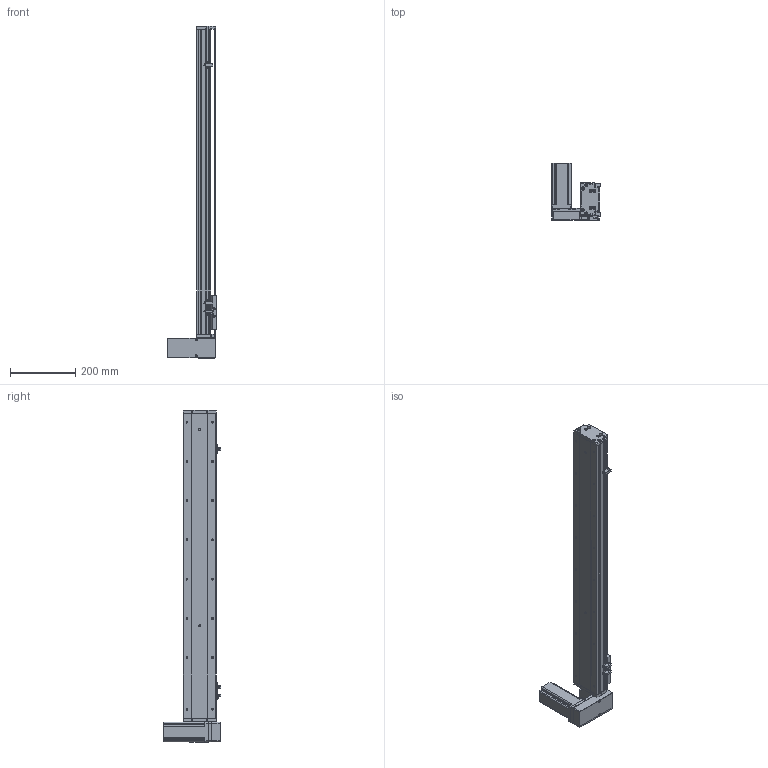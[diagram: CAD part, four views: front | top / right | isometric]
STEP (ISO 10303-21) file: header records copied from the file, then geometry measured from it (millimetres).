
FILE_DESCRIPTION (( 'STEP AP214' ), '1' );
FILE_NAME ('KSD100B-S750-MRD-CM.STEP', '2019-11-11T07:54:59', ( '微软用户' ), ( '微软中国' ), 'SwSTEP 2.0', 'SolidWorks 2014', '' );
FILE_SCHEMA (( 'AUTOMOTIVE_DESIGN' ));
Length unit declared in the file: millimetre
Products named in the file (12): 悵誘欶奻狟殏; 100宽马达安装板连板上下折丝杆同步带; 台达ECMA－C20604AS伺服电机; U倰嫖萇EEㄜSX672; 覜茼え100遵圉猾敕; 100宽防尘板750行程-同步带; 100宽马达安装板同步带右; 100宽同步带安装板半封闭; 100宽马达安装板同步带; 100遵傷啣肮祭湍; 100宽底板半封闭同步带750行程; KSD100B-S750-MRD-CM
Assembly tree (13 placements, depth 2):
  KSD100B-S750-MRD-CM
    100宽底板半封闭同步带750行程
    100遵傷啣肮祭湍
    100宽马达安装板同步带
    100宽同步带安装板半封闭
    100宽马达安装板同步带右
    100宽防尘板750行程-同步带
    覜茼え100遵圉猾敕
    U倰嫖萇EEㄜSX672  x3
    台达ECMA－C20604AS伺服电机
    100宽马达安装板连板上下折丝杆同步带
    悵誘欶奻狟殏
Bounding box: 148.09 x 174.7 x 1015 mm (x, y, z)
Volume: 2449227.1 mm3; surface area: 798752 mm2
Topology: 14 solids, 14 shells, 1401 faces, 3928 edges, 2507 vertices
Faces by surface type: cylinder 695, plane 583, cone 123
Entity records: 49149 total; most frequent: CARTESIAN_POINT 9396, DIRECTION 6796, ORIENTED_EDGE 6516, EDGE_CURVE 3258, AXIS2_PLACEMENT_3D 2477, VERTEX_POINT 2131, VECTOR 1842, LINE 1842
